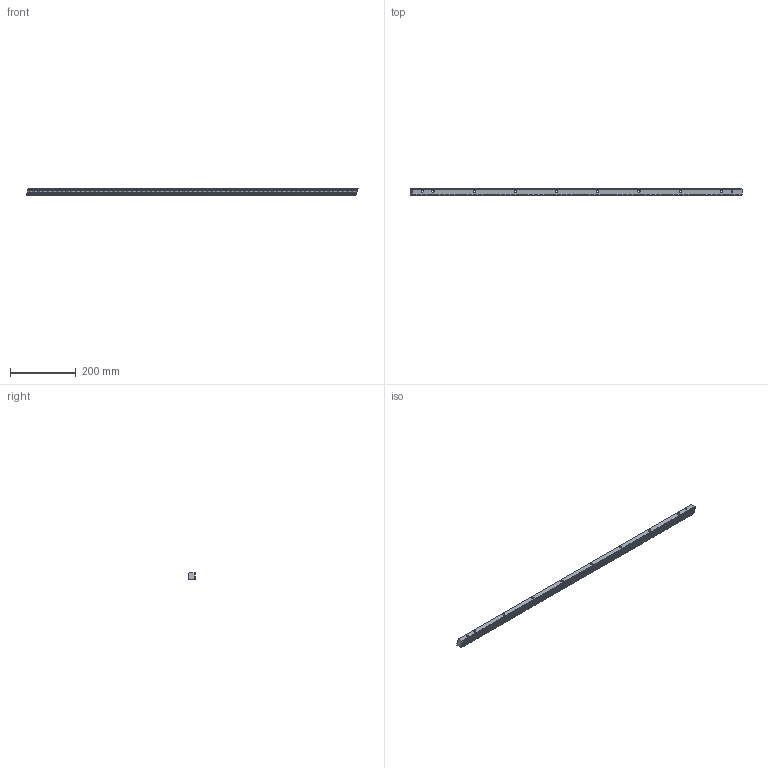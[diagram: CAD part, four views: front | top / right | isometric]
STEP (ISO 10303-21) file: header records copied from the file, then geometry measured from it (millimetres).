
FILE_DESCRIPTION(/* description */ (''),/* implementation_level */ '2;1');
FILE_NAME(/* name */ 'BL-1HR29R015100H.ipt',/* time_stamp */ '2019-06-18T14:26:28+02:00',/* author */ ('VĂ©gh MĂˇtĂ©'),/* organization */ ('Bearing Kft'),/* preprocessor_version */ 'ST-DEVELOPER v16.7',/* originating_system */ 'DEX',/* authorisation */ $);
FILE_SCHEMA (('AUTOMOTIVE_DESIGN {1 0 10303 214 3 1 1}'));
Products named in the file (1): BL-1HR29R015100H.ipt
Bounding box: 1007.27 x 20 x 20.5 mm (x, y, z)
Volume: 364551.8 mm3; surface area: 102204.5 mm2
Topology: 1 solids, 1 shells, 1574 faces, 4530 edges, 3020 vertices
Faces by surface type: plane 1077, bspline 477, cylinder 20
Full cylindrical faces by diameter (mm): 5.7 x2, 7 x8, 11 x8
Entity records: 67944 total; most frequent: CARTESIAN_POINT 17708, ORIENTED_EDGE 9012, DIRECTION 6588, EDGE_CURVE 4506, LINE 3512, VECTOR 3512, VERTEX_POINT 3020, EDGE_LOOP 1680
